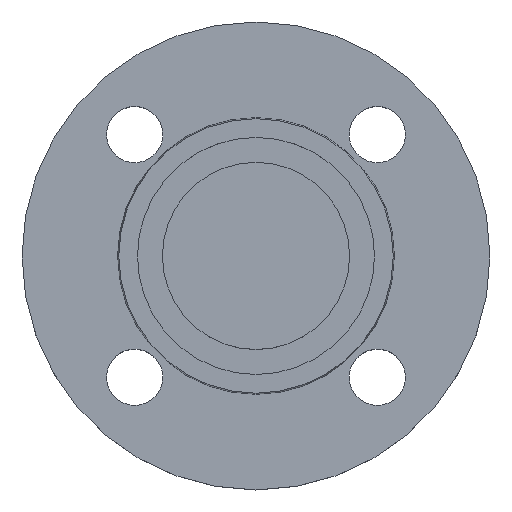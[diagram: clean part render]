
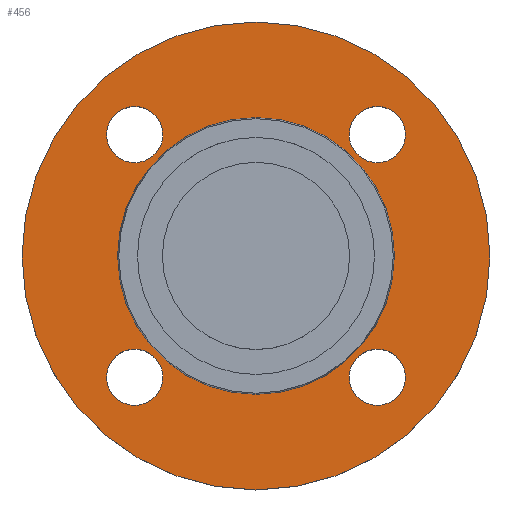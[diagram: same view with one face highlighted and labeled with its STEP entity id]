
A CAD part, top view. The second image highlights one B-rep face of the part: STEP entity #456.
In plain terms, the highlighted planar face has unit normal (0, 0, 1).
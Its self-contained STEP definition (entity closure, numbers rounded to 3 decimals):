
#16 = CARTESIAN_POINT ( 'NONE',  ( -47.891, -38.891, -2. ) ) ;
#22 = EDGE_CURVE ( 'NONE', #439, #448, #465, .T. ) ;
#25 = CARTESIAN_POINT ( 'NONE',  ( -44.353, 0., -2. ) ) ;
#49 = CARTESIAN_POINT ( 'NONE',  ( 29.891, -38.891, -2. ) ) ;
#61 = CARTESIAN_POINT ( 'NONE',  ( -29.891, 38.891, -2. ) ) ;
#72 = CARTESIAN_POINT ( 'NONE',  ( 29.891, 38.891, -2. ) ) ;
#73 = DIRECTION ( 'NONE',  ( 0., 0., -1. ) ) ;
#74 = DIRECTION ( 'NONE',  ( 1., 0., 0. ) ) ;
#77 = CARTESIAN_POINT ( 'NONE',  ( 38.891, 38.891, -2. ) ) ;
#80 = CARTESIAN_POINT ( 'NONE',  ( 47.891, -38.891, -2. ) ) ;
#83 = PLANE ( 'NONE',  #233 ) ;
#85 = CARTESIAN_POINT ( 'NONE',  ( -38.891, 38.891, -2. ) ) ;
#88 = DIRECTION ( 'NONE',  ( 1., 0., 0. ) ) ;
#90 = CARTESIAN_POINT ( 'NONE',  ( 47.891, 38.891, -2. ) ) ;
#92 = CARTESIAN_POINT ( 'NONE',  ( 44.353, 0., -2. ) ) ;
#102 = DIRECTION ( 'NONE',  ( 0., 0., -1. ) ) ;
#103 = FACE_BOUND ( 'NONE', #627, .T. ) ;
#107 = DIRECTION ( 'NONE',  ( 0., 0., 1. ) ) ;
#110 = FACE_BOUND ( 'NONE', #626, .T. ) ;
#111 = CARTESIAN_POINT ( 'NONE',  ( 0., 0., -2. ) ) ;
#112 = CIRCLE ( 'NONE', #191, 44.353 ) ;
#116 = CARTESIAN_POINT ( 'NONE',  ( 38.891, -38.891, -2. ) ) ;
#121 = DIRECTION ( 'NONE',  ( 1., 0., 0. ) ) ;
#130 = FACE_BOUND ( 'NONE', #599, .T. ) ;
#131 = FACE_OUTER_BOUND ( 'NONE', #576, .T. ) ;
#135 = CARTESIAN_POINT ( 'NONE',  ( 75., 0., -2. ) ) ;
#142 = EDGE_CURVE ( 'NONE', #632, #645, #355, .T. ) ;
#147 = CIRCLE ( 'NONE', #148, 9. ) ;
#148 = AXIS2_PLACEMENT_3D ( 'NONE', #759, #528, #683 ) ;
#159 = DIRECTION ( 'NONE',  ( 0., 0., -1. ) ) ;
#173 = CIRCLE ( 'NONE', #255, 75. ) ;
#177 = CIRCLE ( 'NONE', #186, 9. ) ;
#179 = CIRCLE ( 'NONE', #247, 9. ) ;
#184 = AXIS2_PLACEMENT_3D ( 'NONE', #328, #330, #331 ) ;
#186 = AXIS2_PLACEMENT_3D ( 'NONE', #77, #73, #74 ) ;
#190 = AXIS2_PLACEMENT_3D ( 'NONE', #116, #159, #784 ) ;
#191 = AXIS2_PLACEMENT_3D ( 'NONE', #758, #768, #769 ) ;
#194 = AXIS2_PLACEMENT_3D ( 'NONE', #111, #384, #415 ) ;
#197 = DIRECTION ( 'NONE',  ( 0., 0., -1. ) ) ;
#202 = CIRCLE ( 'NONE', #184, 9. ) ;
#212 = EDGE_CURVE ( 'NONE', #455, #600, #112, .T. ) ;
#227 = AXIS2_PLACEMENT_3D ( 'NONE', #272, #285, #287 ) ;
#231 = EDGE_CURVE ( 'NONE', #488, #535, #289, .T. ) ;
#233 = AXIS2_PLACEMENT_3D ( 'NONE', #92, #107, #121 ) ;
#247 = AXIS2_PLACEMENT_3D ( 'NONE', #265, #197, #577 ) ;
#250 = AXIS2_PLACEMENT_3D ( 'NONE', #684, #686, #688 ) ;
#255 = AXIS2_PLACEMENT_3D ( 'NONE', #288, #296, #298 ) ;
#265 = CARTESIAN_POINT ( 'NONE',  ( -38.891, -38.891, -2. ) ) ;
#269 = EDGE_CURVE ( 'NONE', #650, #609, #518, .T. ) ;
#272 = CARTESIAN_POINT ( 'NONE',  ( -38.891, -38.891, -2. ) ) ;
#274 = EDGE_CURVE ( 'NONE', #448, #439, #173, .T. ) ;
#285 = DIRECTION ( 'NONE',  ( 0., 0., -1. ) ) ;
#287 = DIRECTION ( 'NONE',  ( 1., 0., 0. ) ) ;
#288 = CARTESIAN_POINT ( 'NONE',  ( 0., 0., -2. ) ) ;
#289 = CIRCLE ( 'NONE', #190, 9. ) ;
#296 = DIRECTION ( 'NONE',  ( 0., 0., -1. ) ) ;
#297 = CARTESIAN_POINT ( 'NONE',  ( -29.891, -38.891, -2. ) ) ;
#298 = DIRECTION ( 'NONE',  ( -1., 0., 0. ) ) ;
#325 = EDGE_CURVE ( 'NONE', #535, #488, #202, .T. ) ;
#328 = CARTESIAN_POINT ( 'NONE',  ( 38.891, -38.891, -2. ) ) ;
#330 = DIRECTION ( 'NONE',  ( 0., 0., -1. ) ) ;
#331 = DIRECTION ( 'NONE',  ( 1., 0., 0. ) ) ;
#355 = CIRCLE ( 'NONE', #250, 9. ) ;
#363 = CARTESIAN_POINT ( 'NONE',  ( -47.891, 38.891, -2. ) ) ;
#368 = CIRCLE ( 'NONE', #380, 9. ) ;
#374 = FACE_BOUND ( 'NONE', #605, .T. ) ;
#378 = FACE_BOUND ( 'NONE', #428, .T. ) ;
#380 = AXIS2_PLACEMENT_3D ( 'NONE', #85, #102, #88 ) ;
#384 = DIRECTION ( 'NONE',  ( 0., 0., -1. ) ) ;
#398 = EDGE_CURVE ( 'NONE', #512, #646, #368, .T. ) ;
#415 = DIRECTION ( 'NONE',  ( -1., 0., 0. ) ) ;
#418 = CARTESIAN_POINT ( 'NONE',  ( -75., 0., -2. ) ) ;
#421 = CARTESIAN_POINT ( 'NONE',  ( 44.353, 0., -2. ) ) ;
#428 = EDGE_LOOP ( 'NONE', ( #533, #534 ) ) ;
#432 = EDGE_CURVE ( 'NONE', #600, #455, #800, .T. ) ;
#439 = VERTEX_POINT ( 'NONE', #135 ) ;
#442 = AXIS2_PLACEMENT_3D ( 'NONE', #660, #661, #662 ) ;
#448 = VERTEX_POINT ( 'NONE', #418 ) ;
#455 = VERTEX_POINT ( 'NONE', #421 ) ;
#456 = ADVANCED_FACE ( 'NONE', ( #103, #110, #374, #378, #130, #131 ), #83, .T. ) ;
#465 = CIRCLE ( 'NONE', #442, 75. ) ;
#488 = VERTEX_POINT ( 'NONE', #80 ) ;
#497 = EDGE_CURVE ( 'NONE', #645, #632, #177, .T. ) ;
#512 = VERTEX_POINT ( 'NONE', #61 ) ;
#518 = CIRCLE ( 'NONE', #227, 9. ) ;
#525 = ORIENTED_EDGE ( 'NONE', *, *, #231, .T. ) ;
#526 = ORIENTED_EDGE ( 'NONE', *, *, #325, .T. ) ;
#528 = DIRECTION ( 'NONE',  ( 0., 0., -1. ) ) ;
#529 = ORIENTED_EDGE ( 'NONE', *, *, #269, .T. ) ;
#530 = ORIENTED_EDGE ( 'NONE', *, *, #716, .T. ) ;
#531 = ORIENTED_EDGE ( 'NONE', *, *, #398, .T. ) ;
#532 = ORIENTED_EDGE ( 'NONE', *, *, #690, .T. ) ;
#533 = ORIENTED_EDGE ( 'NONE', *, *, #142, .T. ) ;
#534 = ORIENTED_EDGE ( 'NONE', *, *, #497, .T. ) ;
#535 = VERTEX_POINT ( 'NONE', #49 ) ;
#536 = ORIENTED_EDGE ( 'NONE', *, *, #432, .T. ) ;
#541 = ORIENTED_EDGE ( 'NONE', *, *, #212, .T. ) ;
#543 = ORIENTED_EDGE ( 'NONE', *, *, #22, .F. ) ;
#544 = ORIENTED_EDGE ( 'NONE', *, *, #274, .F. ) ;
#576 = EDGE_LOOP ( 'NONE', ( #543, #544 ) ) ;
#577 = DIRECTION ( 'NONE',  ( 1., 0., 0. ) ) ;
#599 = EDGE_LOOP ( 'NONE', ( #536, #541 ) ) ;
#600 = VERTEX_POINT ( 'NONE', #25 ) ;
#605 = EDGE_LOOP ( 'NONE', ( #531, #532 ) ) ;
#609 = VERTEX_POINT ( 'NONE', #16 ) ;
#626 = EDGE_LOOP ( 'NONE', ( #529, #530 ) ) ;
#627 = EDGE_LOOP ( 'NONE', ( #525, #526 ) ) ;
#632 = VERTEX_POINT ( 'NONE', #90 ) ;
#645 = VERTEX_POINT ( 'NONE', #72 ) ;
#646 = VERTEX_POINT ( 'NONE', #363 ) ;
#650 = VERTEX_POINT ( 'NONE', #297 ) ;
#660 = CARTESIAN_POINT ( 'NONE',  ( 0., 0., -2. ) ) ;
#661 = DIRECTION ( 'NONE',  ( 0., 0., -1. ) ) ;
#662 = DIRECTION ( 'NONE',  ( -1., 0., 0. ) ) ;
#683 = DIRECTION ( 'NONE',  ( 1., 0., 0. ) ) ;
#684 = CARTESIAN_POINT ( 'NONE',  ( 38.891, 38.891, -2. ) ) ;
#686 = DIRECTION ( 'NONE',  ( 0., 0., -1. ) ) ;
#688 = DIRECTION ( 'NONE',  ( 1., 0., 0. ) ) ;
#690 = EDGE_CURVE ( 'NONE', #646, #512, #147, .T. ) ;
#716 = EDGE_CURVE ( 'NONE', #609, #650, #179, .T. ) ;
#758 = CARTESIAN_POINT ( 'NONE',  ( 0., 0., -2. ) ) ;
#759 = CARTESIAN_POINT ( 'NONE',  ( -38.891, 38.891, -2. ) ) ;
#768 = DIRECTION ( 'NONE',  ( 0., 0., -1. ) ) ;
#769 = DIRECTION ( 'NONE',  ( -1., 0., 0. ) ) ;
#784 = DIRECTION ( 'NONE',  ( 1., 0., 0. ) ) ;
#800 = CIRCLE ( 'NONE', #194, 44.353 ) ;
